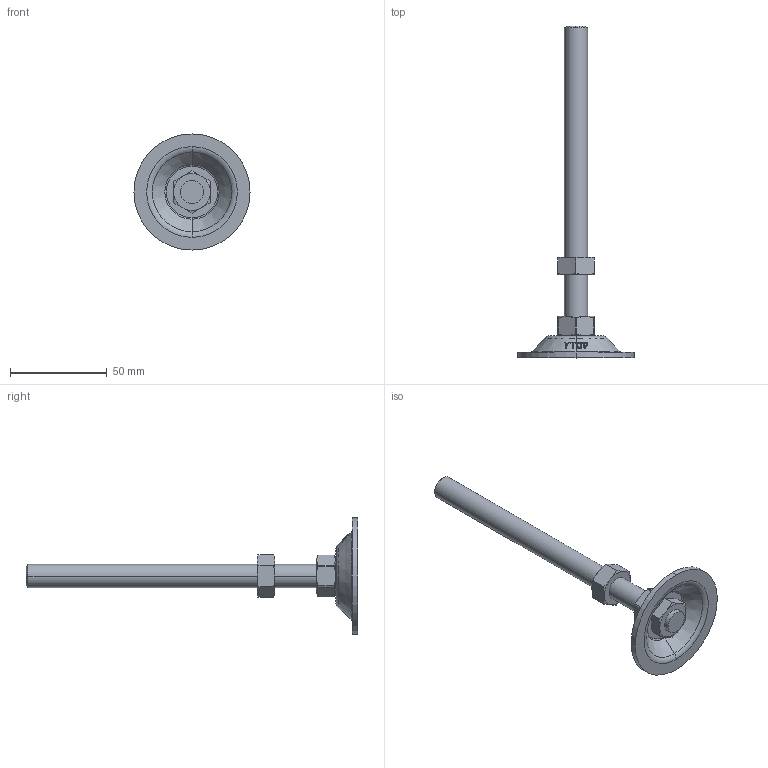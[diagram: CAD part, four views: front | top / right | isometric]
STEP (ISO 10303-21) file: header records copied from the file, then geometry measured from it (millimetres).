
FILE_DESCRIPTION (( 'STEP AP203' ), '1' );
FILE_NAME ('N-60-12150-S.STEP', '2020-09-10T07:57:33', ( '' ), ( '' ), 'SwSTEP 2.0', 'SolidWorks 2016', '' );
FILE_SCHEMA (( 'CONFIG_CONTROL_DESIGN' ));
Length unit declared in the file: millimetre
Products named in the file (5): 脚垫锁紧六角薄螺母M12; 不锈钢双头螺栓M12系列_M12X150; N-60-12150-S; 脚垫调节六角螺母M12; H-60-3P H倰60菁釱
Assembly tree (4 placements, depth 2):
  N-60-12150-S
    H-60-3P H倰60菁釱
    不锈钢双头螺栓M12系列_M12X150
    脚垫锁紧六角薄螺母M12
    脚垫调节六角螺母M12
Bounding box: 60 x 171.5 x 60 mm (x, y, z)
Volume: 34085.4 mm3; surface area: 16516.5 mm2
Topology: 4 solids, 4 shells, 146 faces, 342 edges, 214 vertices
Faces by surface type: cone 52, bspline 38, plane 30, cylinder 18, torus 8
Entity records: 7890 total; most frequent: CARTESIAN_POINT 4410, ORIENTED_EDGE 684, DIRECTION 492, EDGE_CURVE 342, AXIS2_PLACEMENT_3D 217, VERTEX_POINT 214, B_SPLINE_CURVE_WITH_KNOTS 182, EDGE_LOOP 162
